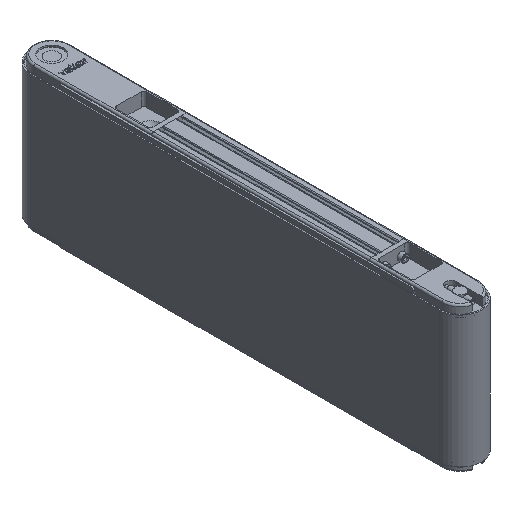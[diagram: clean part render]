
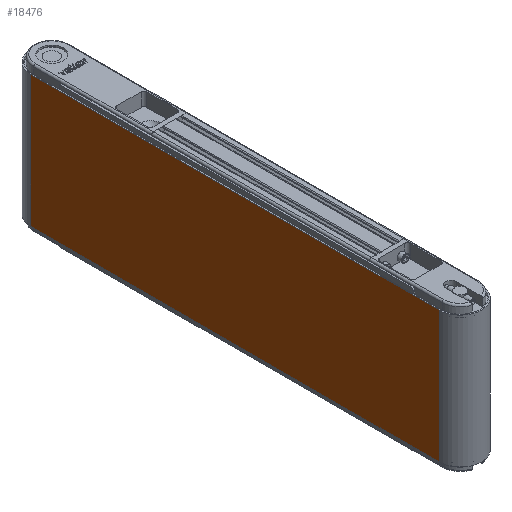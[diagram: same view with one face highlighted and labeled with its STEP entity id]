
A CAD part, isometric view. The second image highlights one B-rep face of the part: STEP entity #18476.
In plain terms, the highlighted planar face has unit normal (-1, 0, 0).
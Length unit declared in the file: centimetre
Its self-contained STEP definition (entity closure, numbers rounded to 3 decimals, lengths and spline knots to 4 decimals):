
#1896=FACE_OUTER_BOUND('',#2901,.T.);
#2901=EDGE_LOOP('',(#12434,#12435,#12436,#12437));
#4167=LINE('',#27124,#5659);
#4168=LINE('',#27129,#5660);
#4170=LINE('',#27133,#5662);
#4171=LINE('',#27134,#5663);
#5659=VECTOR('',#22230,1.);
#5660=VECTOR('',#22235,1.);
#5662=VECTOR('',#22239,1.);
#5663=VECTOR('',#22240,1.);
#7313=VERTEX_POINT('',#27118);
#7315=VERTEX_POINT('',#27122);
#7317=VERTEX_POINT('',#27127);
#7318=VERTEX_POINT('',#27132);
#9322=EDGE_CURVE('',#7313,#7315,#4167,.T.);
#9324=EDGE_CURVE('',#7317,#7315,#4168,.T.);
#9326=EDGE_CURVE('',#7317,#7318,#4170,.T.);
#9327=EDGE_CURVE('',#7318,#7313,#4171,.T.);
#12434=ORIENTED_EDGE('',*,*,#9326,.T.);
#12435=ORIENTED_EDGE('',*,*,#9327,.T.);
#12436=ORIENTED_EDGE('',*,*,#9322,.T.);
#12437=ORIENTED_EDGE('',*,*,#9324,.F.);
#16882=PLANE('',#19739);
#18476=ADVANCED_FACE('',(#1896),#16882,.T.);
#19739=AXIS2_PLACEMENT_3D('',#27131,#22237,#22238);
#22230=DIRECTION('',(0.,1.,0.));
#22235=DIRECTION('',(0.,0.,1.));
#22237=DIRECTION('center_axis',(-1.,0.,0.));
#22238=DIRECTION('ref_axis',(0.,0.,
1.));
#22239=DIRECTION('',(0.,-1.,0.));
#22240=DIRECTION('',(0.,0.,1.));
#27118=CARTESIAN_POINT('',(-2.33,-32.,7.25));
#27122=CARTESIAN_POINT('',(-2.33,13.,7.25));
#27124=CARTESIAN_POINT('',(-2.33,13.,7.25));
#27127=CARTESIAN_POINT('',(-2.33,13.,-7.25));
#27129=CARTESIAN_POINT('',(-2.33,13.,0.));
#27131=CARTESIAN_POINT('Origin',(-2.33,13.,0.));
#27132=CARTESIAN_POINT('',(-2.33,-32.,-7.25));
#27133=CARTESIAN_POINT('',(-2.33,13.,-7.25));
#27134=CARTESIAN_POINT('',(-2.33,-32.,0.));
